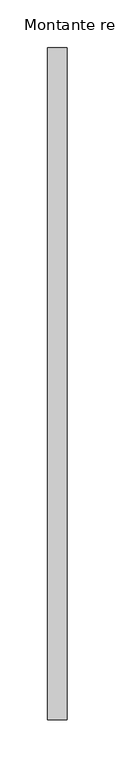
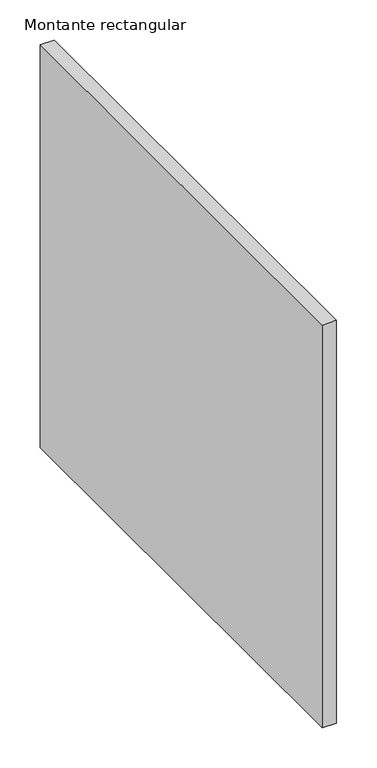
"""IFC4 building model written with IfcOpenShell, lengths in millimetres: member geometry, Montante rectangular : CIRCLES 2."""

import ifcopenshell
import ifcopenshell.guid

model = None  # the IFC model being written
_history = None  # IfcOwnerHistory: only IFC2X3 demands one
_inside = {}  # id of a spatial element -> (the spatial element, [elements in it])
_under = {}  # id of a project, library or spatial element -> (it, [spatial elements below it])
_declared = {}  # id of a project -> (the project, [libraries it declares])
_typed = {}  # id of a type object -> (the type object, [elements of that type])
_made_of = {}  # id of a material, layer set ... -> (it, [elements and type objects made of it])


def new_model(schema):
    """Start an empty IFC model of exactly this schema.

    Asked for "IFC4X3", IfcOpenShell would pick the latest addendum, in which some entities
    have other attributes; the version numbers below select the first issue.
    IFC2X3 requires an IfcOwnerHistory on every rooted entity: one is made here for all.
    """
    global model, _history
    if schema == "IFC4X3":
        model = ifcopenshell.file(schema_version=(4, 3, 0, 0))
    else:
        model = ifcopenshell.file(schema=schema)
    _inside.clear()
    _under.clear()
    _declared.clear()
    _typed.clear()
    _made_of.clear()
    _history = None
    if model.schema == "IFC2X3":
        org = make("IfcOrganization", Name="unknown")
        user = make(
            "IfcPersonAndOrganization",
            ThePerson=make("IfcPerson", FamilyName="unknown"),
            TheOrganization=org,
        )
        app = make(
            "IfcApplication",
            ApplicationDeveloper=org,
            Version="unknown",
            ApplicationFullName="unknown",
            ApplicationIdentifier="unknown",
        )
        _history = make(
            "IfcOwnerHistory",
            OwningUser=user,
            OwningApplication=app,
            ChangeAction="ADDED",
            CreationDate=0,
        )
    return model


def make(cls, **values):
    """One entity of the class cls with the attributes given. An attribute that is None is left unset."""
    return model.create_entity(
        cls, **{name: value for name, value in values.items() if value is not None}
    )


def rooted(cls, **values):
    """An entity with a GlobalId (a new one), such as an element, a storey or a relation."""
    return make(cls, GlobalId=ifcopenshell.guid.new(), OwnerHistory=_history, **values)


def si_unit(unit_type, name, prefix=None):
    """IfcSIUnit, for example si_unit("LENGTHUNIT", "METRE", prefix="MILLI")."""
    return make("IfcSIUnit", UnitType=unit_type, Prefix=prefix, Name=name)


def assignment(units):
    """IfcUnitAssignment: the units of a project."""
    return None if units is None else make("IfcUnitAssignment", Units=units)


def point(xyz):
    """IfcCartesianPoint."""
    return None if xyz is None else make("IfcCartesianPoint", Coordinates=xyz)


def direction(xyz):
    """IfcDirection."""
    return None if xyz is None else make("IfcDirection", DirectionRatios=xyz)


def frame(location, z_axis=None, x_axis=None):
    """IfcAxis2Placement3D, a coordinate frame: its origin and axes. An axis left out is left unset."""
    return make(
        "IfcAxis2Placement3D",
        Location=point(location),
        Axis=direction(z_axis),
        RefDirection=direction(x_axis),
    )


def origin():
    """The frame at (0, 0, 0) with its axes left unset."""
    return frame((0.0, 0.0, 0.0))


def place(relative_to, where):
    """IfcLocalPlacement: puts the frame where relative to a parent placement (None: the world)."""
    return make(
        "IfcLocalPlacement", PlacementRelTo=relative_to, RelativePlacement=where
    )


def context(
    kind, dimensions, precision=None, world=None, true_north=None, identifier=None
):
    """IfcGeometricRepresentationContext, for example the 3D "Model" context."""
    return make(
        "IfcGeometricRepresentationContext",
        ContextIdentifier=identifier,
        ContextType=kind,
        CoordinateSpaceDimension=dimensions,
        Precision=precision,
        WorldCoordinateSystem=world,
        TrueNorth=true_north,
    )


def project(units=None, contexts=None):
    """IfcProject with its units and contexts."""
    return rooted(
        "IfcProject",
        Name="project",
        RepresentationContexts=contexts,
        UnitsInContext=assignment(units),
    )


def spatial(cls, under=None, at=None, **own):
    """A site, building, storey or space (cls), placed at a placement, below another one or the project."""
    s = rooted(cls, ObjectPlacement=at, **own)
    if under is not None:
        _under.setdefault(under.id(), (under, []))[1].append(s)
    return s


def polyline(points):
    """IfcPolyline through the points."""
    return make("IfcPolyline", Points=[point(p) for p in points])


def outline(outer, holes=None, kind="AREA"):
    """IfcArbitraryClosedProfileDef: a profile drawn as a closed curve; with holes, ...WithVoids."""
    if holes is None:
        return make("IfcArbitraryClosedProfileDef", ProfileType=kind, OuterCurve=outer)
    return make(
        "IfcArbitraryProfileDefWithVoids",
        ProfileType=kind,
        OuterCurve=outer,
        InnerCurves=holes,
    )


def extrude(swept, where, along, depth):
    """IfcExtrudedAreaSolid: the profile swept, set in the frame where, extruded along a direction by depth."""
    return make(
        "IfcExtrudedAreaSolid",
        SweptArea=swept,
        Position=where,
        ExtrudedDirection=direction(along),
        Depth=depth,
    )


def shape(context_of_items, identifier, shape_type, items):
    """IfcShapeRepresentation: the items that make up one representation, for example the "Body"."""
    return make(
        "IfcShapeRepresentation",
        ContextOfItems=context_of_items,
        RepresentationIdentifier=identifier,
        RepresentationType=shape_type,
        Items=items,
    )


def source(mapping_origin, context_of_items, identifier, shape_type, items):
    """IfcRepresentationMap: a shape defined once, which mapped items show again and again."""
    return make(
        "IfcRepresentationMap",
        MappingOrigin=mapping_origin,
        MappedRepresentation=shape(context_of_items, identifier, shape_type, items),
    )


def transform(
    local_origin,
    x_axis=None,
    y_axis=None,
    z_axis=None,
    scale=None,
    scale2=None,
    scale3=None,
    uniform=True,
):
    """IfcCartesianTransformationOperator3D, or its non-uniform kind. x_axis, y_axis, z_axis: its Axis1, 2, 3."""
    if uniform:
        return make(
            "IfcCartesianTransformationOperator3D",
            Axis1=direction(x_axis),
            Axis2=direction(y_axis),
            LocalOrigin=point(local_origin),
            Scale=scale,
            Axis3=direction(z_axis),
        )
    return make(
        "IfcCartesianTransformationOperator3DnonUniform",
        Axis1=direction(x_axis),
        Axis2=direction(y_axis),
        LocalOrigin=point(local_origin),
        Scale=scale,
        Axis3=direction(z_axis),
        Scale2=scale2,
        Scale3=scale3,
    )


def mapped(mapping_source, mapping_target):
    """IfcMappedItem: shows the shape of a source again, moved by a transform."""
    return make(
        "IfcMappedItem", MappingSource=mapping_source, MappingTarget=mapping_target
    )


def made_of(thing, what):
    """Note that an element or type object is made of a material, layer set ...; save() writes the relation."""
    if what is not None:
        _made_of.setdefault(what.id(), (what, []))[1].append(thing)
    return thing


def element(
    cls,
    number,
    at=None,
    inside=None,
    cuts=None,
    type_object=None,
    material=None,
    context=None,
    identifier="Body",
    shape_type=None,
    held_by="IfcProductDefinitionShape",
    body=None,
    shapes=None,
    **own,
):
    """One element of the class cls, such as IfcWall. Its Tag is "e" and its number.

    at: its placement. inside: the storey or other place that contains it. cuts: it is an
    opening in that element (IfcRelVoidsElement). A single representation is given by context,
    identifier, shape_type and body (its items); several are given by shapes. held_by: the class
    of the entity that holds the representations. save() writes the other relations.
    """
    e = rooted(cls, Tag="e%d" % number, ObjectPlacement=at, **own)
    if body is not None:
        shapes = [shape(context, identifier, shape_type, body)]
    if shapes is not None:
        e.Representation = make(held_by, Representations=shapes)
    if inside is not None:
        _inside.setdefault(inside.id(), (inside, []))[1].append(e)
    if cuts is not None:
        rooted(
            "IfcRelVoidsElement", RelatingBuildingElement=cuts, RelatedOpeningElement=e
        )
    if type_object is not None:
        _typed.setdefault(type_object.id(), (type_object, []))[1].append(e)
    return made_of(e, material)


def aggregate(whole, parts):
    """IfcRelAggregates: a whole, such as a stair, and the parts it consists of."""
    return rooted("IfcRelAggregates", RelatingObject=whole, RelatedObjects=parts)


def save(model, path):
    """Write the relations noted so far, then the file.

    IfcRelAggregates (storeys below a building ...), IfcRelContainedInSpatialStructure (elements
    in a storey), IfcRelDefinesByType, IfcRelAssociatesMaterial and IfcRelDeclares: one each for
    every whole, place, type object, material and project.
    """
    for whole, parts in _under.values():
        aggregate(whole, parts)
    for where, things in _inside.values():
        rooted(
            "IfcRelContainedInSpatialStructure",
            RelatedElements=things,
            RelatingStructure=where,
        )
    for kind, things in _typed.values():
        rooted("IfcRelDefinesByType", RelatedObjects=things, RelatingType=kind)
    for what, things in _made_of.values():
        rooted("IfcRelAssociatesMaterial", RelatedObjects=things, RelatingMaterial=what)
    for by, libraries in _declared.values():
        rooted("IfcRelDeclares", RelatingContext=by, RelatedDefinitions=libraries)
    model.write(path)


def montante_rectangular_849fd185(model_context):
    return source(origin(), model_context, "Body", "SweptSolid", [
        extrude(outline(polyline([(0.0, 350.0), (0.0, -350.0), (-20.0, -350.0), (-20.0, 350.0), (0.0, 350.0)])), frame((0.0, 0.0, -610.0), z_axis=(0.0, 0.0, 1.0), x_axis=(1.0, 0.0, 0.0)), (0.0, 0.0, 1.0), 610.0),
    ])


if __name__ == "__main__":
    model = new_model("IFC4")
    model_context = context("Model", 3, world=origin())
    ifc_project = project(units=[si_unit("LENGTHUNIT", "METRE", prefix="MILLI")], contexts=[model_context])
    site = spatial("IfcSite", under=ifc_project)
    building = spatial("IfcBuilding", under=site)
    placement = place(None, origin())
    montante_rectangular_shape = montante_rectangular_849fd185(model_context)
    element("IfcMember", 1, ObjectType="Montante rectangular : CIRCLES 2", at=placement, inside=building, context=model_context, shape_type="MappedRepresentation", body=[
        mapped(montante_rectangular_shape, transform((0.0, 0.0, 0.0), x_axis=(1.0, 0.0, 0.0), y_axis=(0.0, 1.0, 0.0), z_axis=(0.0, 0.0, 1.0))),
    ])
    save(model, "model.ifc")
